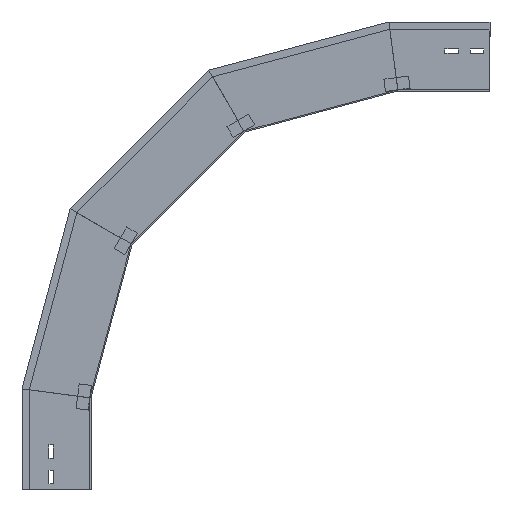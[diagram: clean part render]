
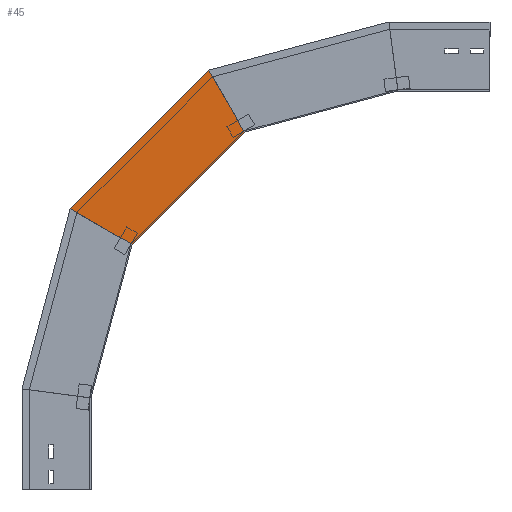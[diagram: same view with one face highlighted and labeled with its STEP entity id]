
A CAD part, left-side view. The second image highlights one B-rep face of the part: STEP entity #45.
In plain terms, the highlighted planar face has unit normal (-1, 0, 0) as drawn and (1, 0, 0) by its records, which use the part's own axes.
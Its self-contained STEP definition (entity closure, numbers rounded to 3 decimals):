
#1 = DIRECTION ( 'NONE',  ( 0., -0.866, -0.5 ) ) ;
#45 = ADVANCED_FACE ( 'NONE', ( #1742 ), #1537, .T. ) ;
#125 = VECTOR ( 'NONE', #1151, 1000. ) ;
#161 = VECTOR ( 'NONE', #870, 1000. ) ;
#167 = ORIENTED_EDGE ( 'NONE', *, *, #1132, .F. ) ;
#169 = VERTEX_POINT ( 'NONE', #1651 ) ;
#279 = CARTESIAN_POINT ( 'NONE',  ( 0., -43.517, 376.657 ) ) ;
#322 = ORIENTED_EDGE ( 'NONE', *, *, #1515, .T. ) ;
#378 = DIRECTION ( 'NONE',  ( 1., 0., 0. ) ) ;
#405 = VECTOR ( 'NONE', #845, 1000. ) ;
#419 = CARTESIAN_POINT ( 'NONE',  ( 0., -67.034, 400.175 ) ) ;
#623 = VECTOR ( 'NONE', #1, 1000. ) ;
#735 = LINE ( 'NONE', #1579, #405 ) ;
#779 = EDGE_CURVE ( 'NONE', #1341, #169, #735, .T. ) ;
#845 = DIRECTION ( 'NONE',  ( 0., -0.707, 0.707 ) ) ;
#870 = DIRECTION ( 'NONE',  ( 0., -0.5, -0.866 ) ) ;
#899 = VERTEX_POINT ( 'NONE', #1373 ) ;
#912 = LINE ( 'NONE', #1045, #623 ) ;
#983 = CARTESIAN_POINT ( 'NONE',  ( 0., 36.033, 456.207 ) ) ;
#1021 = VERTEX_POINT ( 'NONE', #1884 ) ;
#1045 = CARTESIAN_POINT ( 'NONE',  ( 0., -128.762, 364.536 ) ) ;
#1132 = EDGE_CURVE ( 'NONE', #899, #1341, #912, .T. ) ;
#1151 = DIRECTION ( 'NONE',  ( 0., -0.707, 0.707 ) ) ;
#1169 = CARTESIAN_POINT ( 'NONE',  ( 0., -287.996, 517.807 ) ) ;
#1302 = ORIENTED_EDGE ( 'NONE', *, *, #1329, .T. ) ;
#1329 = EDGE_CURVE ( 'NONE', #899, #1021, #1727, .T. ) ;
#1341 = VERTEX_POINT ( 'NONE', #419 ) ;
#1373 = CARTESIAN_POINT ( 'NONE',  ( 0., 33.831, 458.409 ) ) ;
#1467 = LINE ( 'NONE', #1169, #161 ) ;
#1512 = ORIENTED_EDGE ( 'NONE', *, *, #779, .F. ) ;
#1515 = EDGE_CURVE ( 'NONE', #1021, #169, #1467, .T. ) ;
#1537 = PLANE ( 'NONE',  #1774 ) ;
#1579 = CARTESIAN_POINT ( 'NONE',  ( 0., -43.517, 376.657 ) ) ;
#1629 = EDGE_LOOP ( 'NONE', ( #1302, #322, #1512, #167 ) ) ;
#1651 = CARTESIAN_POINT ( 'NONE',  ( 0., -250.175, 583.315 ) ) ;
#1727 = LINE ( 'NONE', #983, #125 ) ;
#1742 = FACE_OUTER_BOUND ( 'NONE', #1629, .T. ) ;
#1774 = AXIS2_PLACEMENT_3D ( 'NONE', #279, #378, #1840 ) ;
#1840 = DIRECTION ( 'NONE',  ( 0., 0., -1. ) ) ;
#1884 = CARTESIAN_POINT ( 'NONE',  ( 0., -191.941, 684.18 ) ) ;
